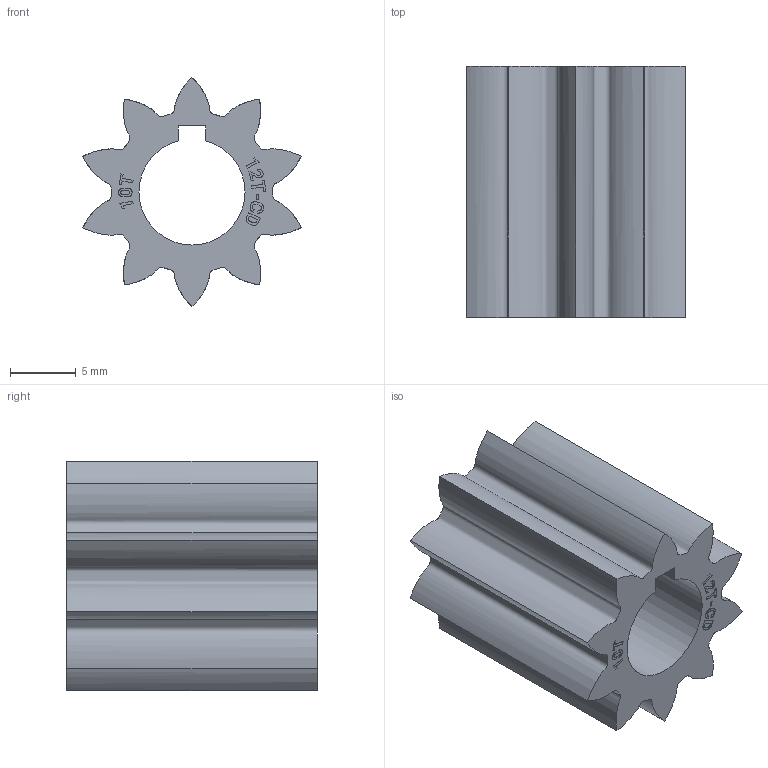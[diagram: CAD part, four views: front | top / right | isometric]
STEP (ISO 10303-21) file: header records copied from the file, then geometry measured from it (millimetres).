
FILE_DESCRIPTION (( 'STEP AP214' ), '1' );
FILE_NAME ('10t Steel Spur Gear (20 DP, 12t Center Distance, 8mm Key Bore) (WCP-0899)_1.step', '2025-12-23T15:51:38', ( '' ), ( '' ), 'SwSTEP 2.0', 'SolidWorks 2026', '' );
FILE_SCHEMA (( 'AUTOMOTIVE_DESIGN' ));
Length unit declared in the file: inch
Products named in the file (1): 10t Steel Spur Gear (20 DP, 12t Center Distance, 8mm Key Bore) (WCP-0899)_1
Bounding box: 16.6 x 19.05 x 17.45 mm (x, y, z)
Volume: 2025.5 mm3; surface area: 2127.9 mm2
Topology: 1 solids, 1 shells, 213 faces, 567 edges, 378 vertices
Faces by surface type: plane 145, bspline 65, cylinder 3
Entity records: 10334 total; most frequent: CARTESIAN_POINT 5430, ORIENTED_EDGE 1134, DIRECTION 741, EDGE_CURVE 567, VECTOR 431, LINE 431, VERTEX_POINT 378, EDGE_LOOP 237
